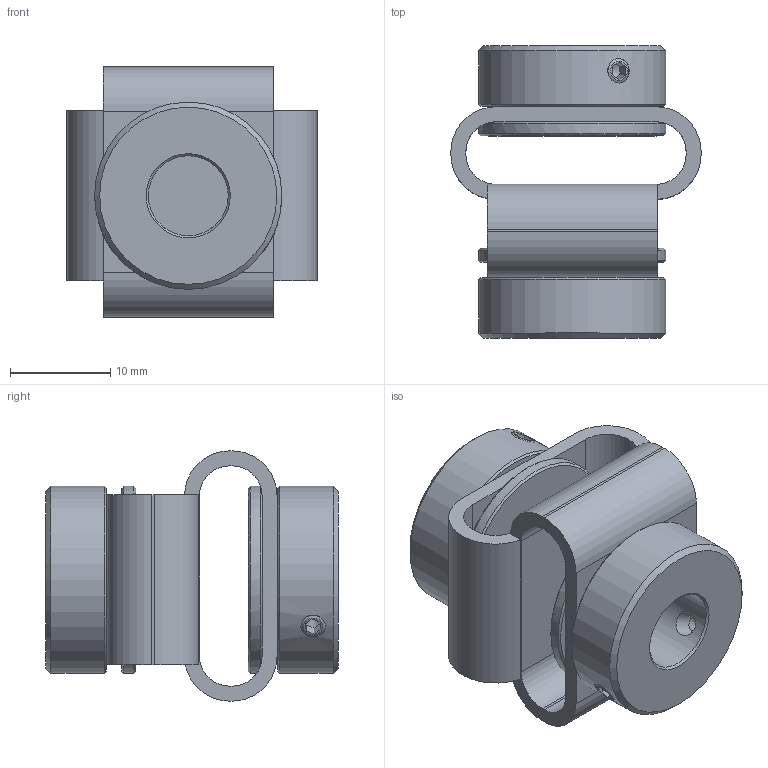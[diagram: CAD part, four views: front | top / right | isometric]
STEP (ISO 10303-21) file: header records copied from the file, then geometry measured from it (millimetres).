
FILE_DESCRIPTION(/* description */ (''),/* implementation_level */ '2;1');
FILE_NAME(/* name */ 'Z:\ABP-Antriebstechnik\Entwicklung-3D\Paguflex\DKPS 2928 08 08.stp',/* time_stamp */ '2017-06-26T14:50:58+02:00',/* author */ ('werner.boesinger'),/* organization */ (''),/* preprocessor_version */ 'ST-DEVELOPER v16.1',/* originating_system */ 'Autodesk Inventor 2016',/* authorisation */ '');
FILE_SCHEMA (('AUTOMOTIVE_DESIGN { 1 0 10303 214 3 1 1 }'));
Length unit declared in the file: millimetre
Products named in the file (1): DKPS 2928 08 08
Bounding box: 25 x 29.2 x 25 mm (x, y, z)
Volume: 5514.4 mm3; surface area: 5414.8 mm2
Topology: 1 solids, 3 shells, 154 faces, 366 edges, 226 vertices
Faces by surface type: plane 90, cylinder 36, cone 28
Full cylindrical faces by diameter (mm): 2.459 x8, 8 x2, 12.5 x2, 14 x4, 18.7 x4
Entity records: 4367 total; most frequent: CARTESIAN_POINT 961, DIRECTION 694, ORIENTED_EDGE 572, EDGE_CURVE 286, AXIS2_PLACEMENT_3D 273, EDGE_LOOP 220, VERTEX_POINT 192, STYLED_ITEM 155
